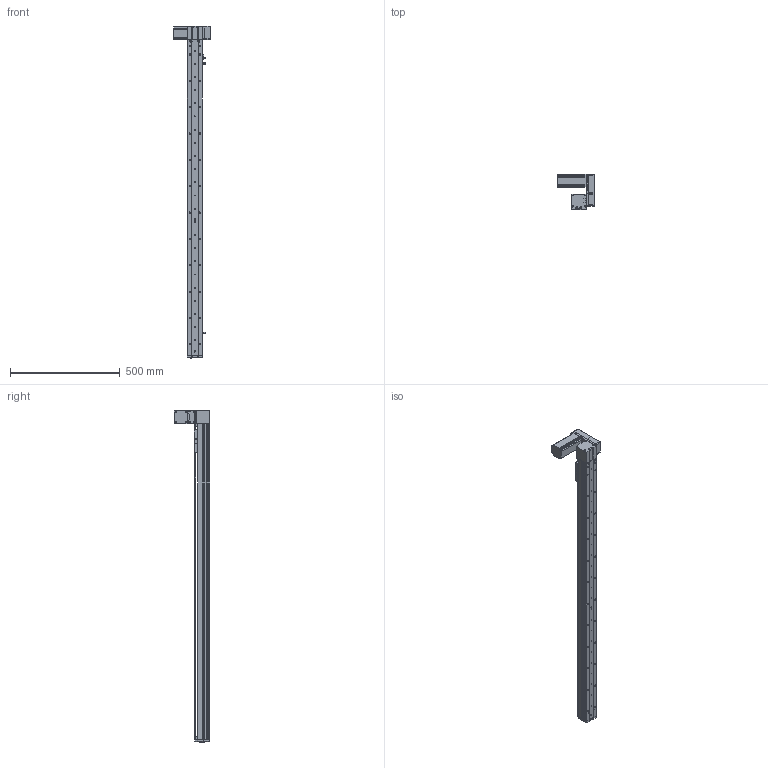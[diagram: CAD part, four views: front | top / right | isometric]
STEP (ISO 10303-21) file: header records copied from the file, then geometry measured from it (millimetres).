
FILE_DESCRIPTION (( 'STEP AP214' ), '1' );
FILE_NAME ('KSD68BS-S1250-MLU-CM.STEP', '2019-11-06T06:57:33', ( '微软用户' ), ( '微软中国' ), 'SwSTEP 2.0', 'SolidWorks 2014', '' );
FILE_SCHEMA (( 'AUTOMOTIVE_DESIGN' ));
Length unit declared in the file: millimetre
Products named in the file (28): 68单导轨半封闭同步带盖板支撑板; MR148ZZ粣創_PreviewCfg; 68全封闭双导轨同步带HTPA22S3M150-A-H4轴承; 68遵植肮祭謫粣; 68单导轨全封闭同步轮支撑座; S3M同步皮带压条1单导轨; S3M150同步带压条单导轨_TBCR-S3M150; 68单导轨同步带半封闭端板; KSD68BS 1250俴最裔啣圉猾敕; M5x15囀鞠褒_PreviewCfg; 覜茼え68遵圉猾敕; 肣翐M4X25樓6; KSD68BS半封闭同步带传动导轨座; 悵誘欶奻狟殏; U倰嫖萇EEㄜSX672; HTPA30S3M150_A_H6_a萇儂蚚; U倰嫖萇假蚾璃; HTPA30S3M150_A_H6_a佪裝蚚8; 台达ECMA－C20604AS伺服电机（400W); 主同步轮轴68电机折弯; KSD68BS 1250俴最絳寢圉猾敕; 68宽马达安装板连板上折同步带; KSD68BS 1250俴最菁啣圉猾敕; 滅袉菜1; HTPA22S3M150-A-H4-a; KSD68BS-S1250-MLU-CM; 68宽单导轨半封闭同步带主动轮座左; 68宽单导轨半封闭同步带盖板支撑板1
Assembly tree (40 placements, depth 2):
  KSD68BS-S1250-MLU-CM
    KSD68BS 1250俴最菁啣圉猾敕
    KSD68BS 1250俴最絳寢圉猾敕
    台达ECMA－C20604AS伺服电机（400W)
    U倰嫖萇假蚾璃  x3
    U倰嫖萇EEㄜSX672  x3
    KSD68BS半封闭同步带传动导轨座
    覜茼え68遵圉猾敕
    KSD68BS 1250俴最裔啣圉猾敕
    68单导轨同步带半封闭端板
    S3M150同步带压条单导轨_TBCR-S3M150  x2
    S3M同步皮带压条1单导轨  x2
    68单导轨全封闭同步轮支撑座  x2
    68遵植肮祭謫粣
    68全封闭双导轨同步带HTPA22S3M150-A-H4轴承
    MR148ZZ粣創_PreviewCfg  x2
    68单导轨半封闭同步带盖板支撑板
    68宽单导轨半封闭同步带盖板支撑板1
    68宽单导轨半封闭同步带主动轮座左
    HTPA22S3M150-A-H4-a
    滅袉菜1  x2
    68宽马达安装板连板上折同步带
    主同步轮轴68电机折弯
    HTPA30S3M150_A_H6_a佪裝蚚8
    HTPA30S3M150_A_H6_a萇儂蚚
    悵誘欶奻狟殏
    肣翐M4X25樓6  x2
    M5x15囀鞠褒_PreviewCfg  x4
Bounding box: 167.2 x 159.5 x 1512.3 mm (x, y, z)
Volume: 3215748.4 mm3; surface area: 1155823.7 mm2
Topology: 42 solids, 138 shells, 4465 faces, 12630 edges, 8242 vertices
Faces by surface type: cylinder 2333, plane 1308, cone 572, torus 164, sphere 84, bspline 4
Entity records: 131158 total; most frequent: CARTESIAN_POINT 26305, DIRECTION 19509, ORIENTED_EDGE 18892, EDGE_CURVE 9446, AXIS2_PLACEMENT_3D 7678, VERTEX_POINT 6234, CIRCLE 4320, LINE 4153
